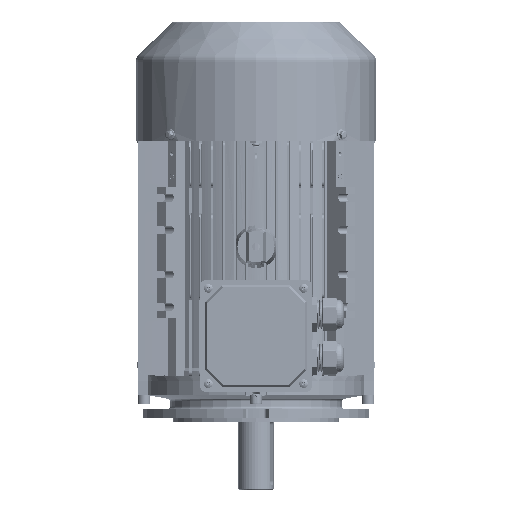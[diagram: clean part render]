
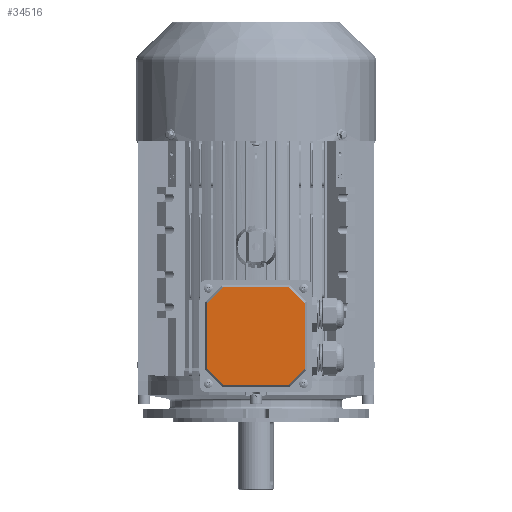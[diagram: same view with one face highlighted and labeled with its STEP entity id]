
A CAD part, top view. The second image highlights one B-rep face of the part: STEP entity #34516.
In plain terms, the highlighted planar face has unit normal (0, 0, 1) as drawn and (0, 0, -1) by its records, which use the part's own axes.
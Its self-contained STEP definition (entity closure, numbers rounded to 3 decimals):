
#968 = CARTESIAN_POINT ( 'NONE',  ( 52.536, -35.903, -4. ) ) ;
#1950 = AXIS2_PLACEMENT_3D ( 'NONE', #139517, #74831, #9947 ) ;
#4350 = EDGE_LOOP ( 'NONE', ( #11236, #61843, #119056, #82067, #40316, #102987, #119334, #84721 ) ) ;
#9947 = DIRECTION ( 'NONE',  ( 1., 0., 0. ) ) ;
#11236 = ORIENTED_EDGE ( 'NONE', *, *, #114806, .F. ) ;
#12129 = CARTESIAN_POINT ( 'NONE',  ( -35.903, -52.536, -4. ) ) ;
#15254 = VERTEX_POINT ( 'NONE', #59283 ) ;
#15494 = CARTESIAN_POINT ( 'NONE',  ( -44.22, -44.22, -4. ) ) ;
#18936 = CARTESIAN_POINT ( 'NONE',  ( 35.903, -52.536, -4. ) ) ;
#20469 = EDGE_CURVE ( 'NONE', #36675, #28562, #121817, .T. ) ;
#20668 = LINE ( 'NONE', #29421, #103580 ) ;
#20980 = EDGE_CURVE ( 'NONE', #15254, #37361, #114857, .T. ) ;
#22593 = EDGE_CURVE ( 'NONE', #90571, #15254, #138372, .T. ) ;
#25358 = CARTESIAN_POINT ( 'NONE',  ( -44.22, 44.22, -4. ) ) ;
#27651 = CARTESIAN_POINT ( 'NONE',  ( 44.22, 44.22, -4. ) ) ;
#28562 = VERTEX_POINT ( 'NONE', #968 ) ;
#29421 = CARTESIAN_POINT ( 'NONE',  ( 0., -52.536, -4. ) ) ;
#32104 = LINE ( 'NONE', #96547, #57575 ) ;
#32176 = DIRECTION ( 'NONE',  ( 0., -1., 0. ) ) ;
#34145 = VECTOR ( 'NONE', #137157, 1000. ) ;
#34516 = ADVANCED_FACE ( 'NONE', ( #124087 ), #74359, .F. ) ;
#34763 = CARTESIAN_POINT ( 'NONE',  ( -52.536, 35.903, -4. ) ) ;
#36675 = VERTEX_POINT ( 'NONE', #18936 ) ;
#37361 = VERTEX_POINT ( 'NONE', #41510 ) ;
#39016 = DIRECTION ( 'NONE',  ( -0.707, 0.707, 0. ) ) ;
#40316 = ORIENTED_EDGE ( 'NONE', *, *, #102531, .F. ) ;
#41510 = CARTESIAN_POINT ( 'NONE',  ( -35.903, 52.536, -4. ) ) ;
#47184 = DIRECTION ( 'NONE',  ( -0.707, -0.707, 0. ) ) ;
#52158 = VECTOR ( 'NONE', #39016, 1000. ) ;
#52874 = CARTESIAN_POINT ( 'NONE',  ( -52.536, -35.903, -4. ) ) ;
#56035 = VERTEX_POINT ( 'NONE', #34763 ) ;
#56929 = EDGE_CURVE ( 'NONE', #37361, #56035, #125113, .T. ) ;
#57124 = VERTEX_POINT ( 'NONE', #52874 ) ;
#57575 = VECTOR ( 'NONE', #32176, 1000. ) ;
#59283 = CARTESIAN_POINT ( 'NONE',  ( 35.903, 52.536, -4. ) ) ;
#61843 = ORIENTED_EDGE ( 'NONE', *, *, #20469, .F. ) ;
#64406 = VECTOR ( 'NONE', #78247, 1000. ) ;
#65395 = CARTESIAN_POINT ( 'NONE',  ( 0., 52.536, -4. ) ) ;
#67391 = CARTESIAN_POINT ( 'NONE',  ( 44.22, -44.22, -4. ) ) ;
#69560 = DIRECTION ( 'NONE',  ( 0.707, -0.707, 0. ) ) ;
#74359 = PLANE ( 'NONE',  #1950 ) ;
#74831 = DIRECTION ( 'NONE',  ( 0., 0., 1. ) ) ;
#76243 = DIRECTION ( 'NONE',  ( -1., 0., 0. ) ) ;
#78247 = DIRECTION ( 'NONE',  ( 0.707, 0.707, 0. ) ) ;
#82067 = ORIENTED_EDGE ( 'NONE', *, *, #108312, .F. ) ;
#82896 = CARTESIAN_POINT ( 'NONE',  ( 52.536, 0., -4. ) ) ;
#84721 = ORIENTED_EDGE ( 'NONE', *, *, #22593, .F. ) ;
#89663 = VERTEX_POINT ( 'NONE', #12129 ) ;
#90571 = VERTEX_POINT ( 'NONE', #100047 ) ;
#91679 = LINE ( 'NONE', #82896, #34145 ) ;
#94915 = VECTOR ( 'NONE', #69560, 1000. ) ;
#96547 = CARTESIAN_POINT ( 'NONE',  ( -52.536, 0., -4. ) ) ;
#100047 = CARTESIAN_POINT ( 'NONE',  ( 52.536, 35.903, -4. ) ) ;
#101672 = LINE ( 'NONE', #15494, #94915 ) ;
#102531 = EDGE_CURVE ( 'NONE', #56035, #57124, #32104, .T. ) ;
#102987 = ORIENTED_EDGE ( 'NONE', *, *, #56929, .F. ) ;
#103580 = VECTOR ( 'NONE', #105117, 1000. ) ;
#105117 = DIRECTION ( 'NONE',  ( 1., 0., 0. ) ) ;
#108312 = EDGE_CURVE ( 'NONE', #57124, #89663, #101672, .T. ) ;
#111514 = VECTOR ( 'NONE', #76243, 1000. ) ;
#114436 = EDGE_CURVE ( 'NONE', #89663, #36675, #20668, .T. ) ;
#114806 = EDGE_CURVE ( 'NONE', #28562, #90571, #91679, .T. ) ;
#114857 = LINE ( 'NONE', #65395, #111514 ) ;
#119056 = ORIENTED_EDGE ( 'NONE', *, *, #114436, .F. ) ;
#119334 = ORIENTED_EDGE ( 'NONE', *, *, #20980, .F. ) ;
#121760 = VECTOR ( 'NONE', #47184, 1000. ) ;
#121817 = LINE ( 'NONE', #67391, #64406 ) ;
#124087 = FACE_OUTER_BOUND ( 'NONE', #4350, .T. ) ;
#125113 = LINE ( 'NONE', #25358, #121760 ) ;
#137157 = DIRECTION ( 'NONE',  ( 0., 1., 0. ) ) ;
#138372 = LINE ( 'NONE', #27651, #52158 ) ;
#139517 = CARTESIAN_POINT ( 'NONE',  ( 0., 0., -4. ) ) ;
